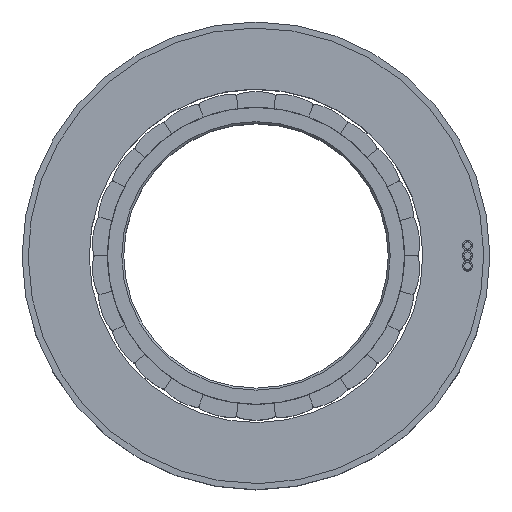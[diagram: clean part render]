
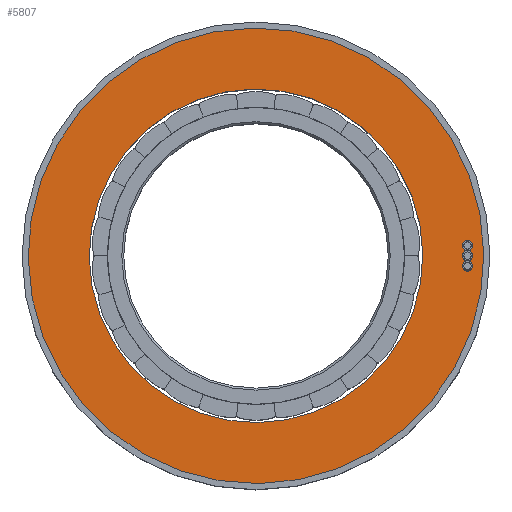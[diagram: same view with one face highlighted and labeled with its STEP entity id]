
A CAD part, top view. The second image highlights one B-rep face of the part: STEP entity #5807.
In plain terms, the highlighted planar face has unit normal (0, 0, 1).
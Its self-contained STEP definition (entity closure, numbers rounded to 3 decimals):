
#476 = VERTEX_POINT ( 'NONE', #9659 ) ;
#1017 = CIRCLE ( 'NONE', #1376, 56. ) ;
#1093 = DIRECTION ( 'NONE',  ( 1., 0., 0. ) ) ;
#1376 = AXIS2_PLACEMENT_3D ( 'NONE', #2130, #1920, #1093 ) ;
#1411 = CARTESIAN_POINT ( 'NONE',  ( 0., 0., 44.4 ) ) ;
#1920 = DIRECTION ( 'NONE',  ( 0., 0., 1. ) ) ;
#2130 = CARTESIAN_POINT ( 'NONE',  ( 0., 0., 44.4 ) ) ;
#2659 = ORIENTED_EDGE ( 'NONE', *, *, #6050, .F. ) ;
#2817 = DIRECTION ( 'NONE',  ( 1., 0., 0. ) ) ;
#2863 = AXIS2_PLACEMENT_3D ( 'NONE', #1411, #10305, #2817 ) ;
#2945 = ORIENTED_EDGE ( 'NONE', *, *, #7374, .T. ) ;
#3043 = FACE_OUTER_BOUND ( 'NONE', #9112, .T. ) ;
#3210 = AXIS2_PLACEMENT_3D ( 'NONE', #5969, #8501, #7667 ) ;
#5328 = EDGE_LOOP ( 'NONE', ( #2659 ) ) ;
#5807 = ADVANCED_FACE ( 'NONE', ( #3043, #6368 ), #6962, .T. ) ;
#5969 = CARTESIAN_POINT ( 'NONE',  ( 0., 0., 44.4 ) ) ;
#6050 = EDGE_CURVE ( 'NONE', #7974, #7974, #7743, .T. ) ;
#6314 = CARTESIAN_POINT ( 'NONE',  ( 41., 0., 44.4 ) ) ;
#6368 = FACE_BOUND ( 'NONE', #5328, .T. ) ;
#6962 = PLANE ( 'NONE',  #2863 ) ;
#7374 = EDGE_CURVE ( 'NONE', #476, #476, #1017, .T. ) ;
#7667 = DIRECTION ( 'NONE',  ( 1., 0., 0. ) ) ;
#7743 = CIRCLE ( 'NONE', #3210, 41. ) ;
#7974 = VERTEX_POINT ( 'NONE', #6314 ) ;
#8501 = DIRECTION ( 'NONE',  ( 0., 0., 1. ) ) ;
#9112 = EDGE_LOOP ( 'NONE', ( #2945 ) ) ;
#9659 = CARTESIAN_POINT ( 'NONE',  ( 56., 0., 44.4 ) ) ;
#10305 = DIRECTION ( 'NONE',  ( 0., 0., 1. ) ) ;
